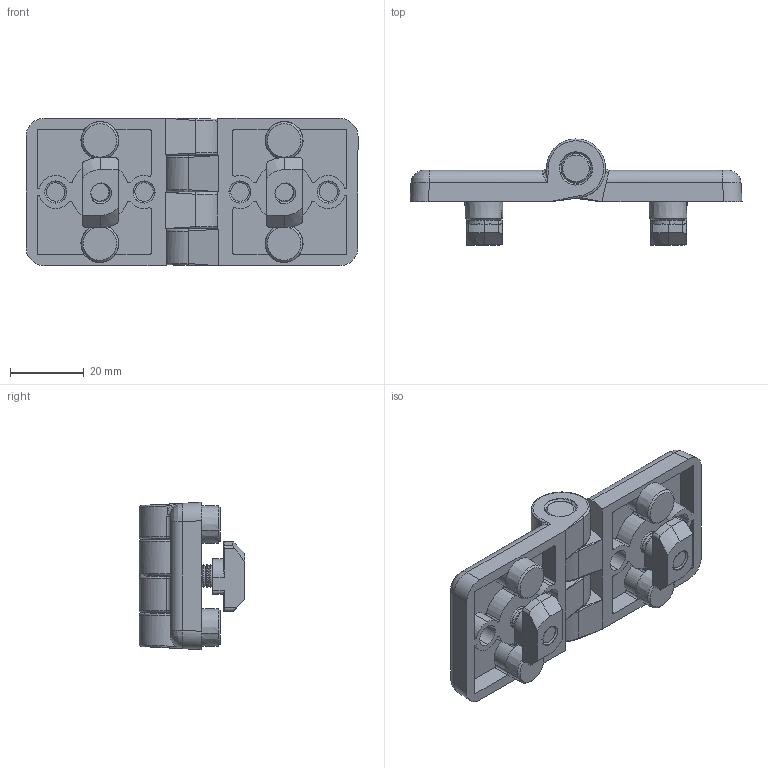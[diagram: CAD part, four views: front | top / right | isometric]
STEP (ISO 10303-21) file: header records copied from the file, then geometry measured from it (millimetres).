
FILE_DESCRIPTION (( 'STEP AP203' ), '1' );
FILE_NAME ('402075_Scharnier PA 45x45 mit Bef.-Satz (2 Bohrungen).step', '2022-05-18T13:39:09', ( '' ), ( '' ), 'SwSTEP 2.0', 'SolidWorks 2021', '' );
FILE_SCHEMA (( 'CONFIG_CONTROL_DESIGN' ));
Length unit declared in the file: millimetre
Products named in the file (7): 402075_Scharnier PA 45x45 mit Bef.-Satz (2 Bohrungen); 99900768 Zentrierblozen 10; 99900768 Scharnier PA 45x45 (2 Bohrungen); 402075 Achse; 342030 Hammermutter Nut 10 M6; 99900768 Scharnierflügel 45; DIN 7991 - M6 x 20 --- 20S_DIN 7991 - M6 x 20 --- 20S
Assembly tree (12 placements, depth 3):
  402075_Scharnier PA 45x45 mit Bef.-Satz (2 Bohrungen)
    99900768 Scharnier PA 45x45 (2 Bohrungen)
      99900768 Scharnierflügel 45  x2
      402075 Achse
      99900768 Zentrierblozen 10  x4
    342030 Hammermutter Nut 10 M6  x2
    DIN 7991 - M6 x 20 --- 20S_DIN 7991 - M6 x 20 --- 20S  x2
Bounding box: 90.1 x 28.73 x 40 mm (x, y, z)
Volume: 29405.1 mm3; surface area: 20786.3 mm2
Topology: 11 solids, 11 shells, 835 faces, 2228 edges, 1432 vertices
Faces by surface type: cylinder 376, cone 192, plane 185, torus 50, bspline 32
Entity records: 17932 total; most frequent: CARTESIAN_POINT 7715, ORIENTED_EDGE 2032, DIRECTION 1930, EDGE_CURVE 1016, AXIS2_PLACEMENT_3D 757, VERTEX_POINT 655, LINE 416, VECTOR 416
